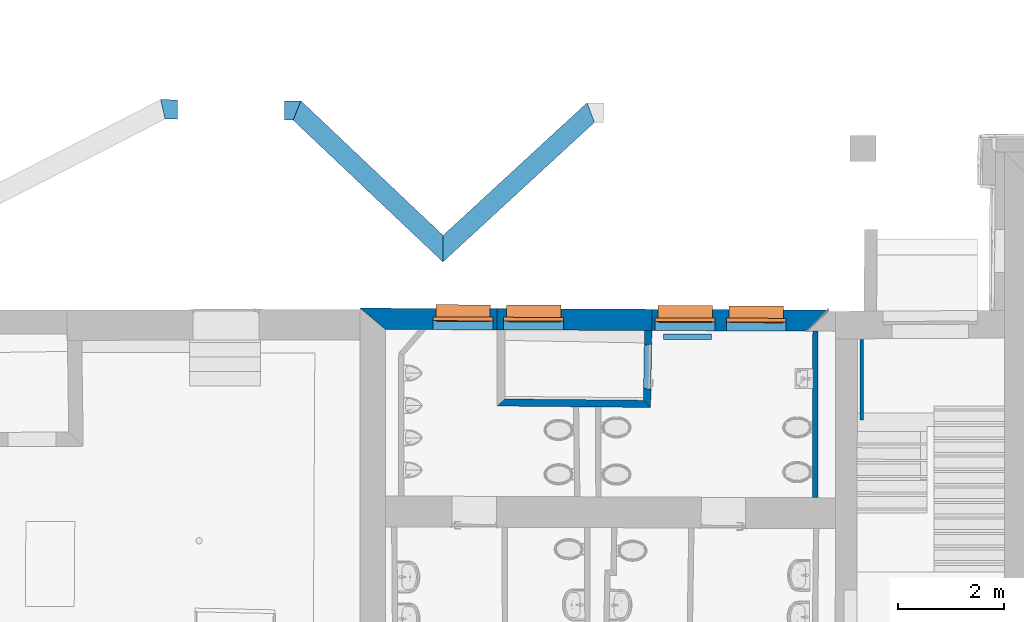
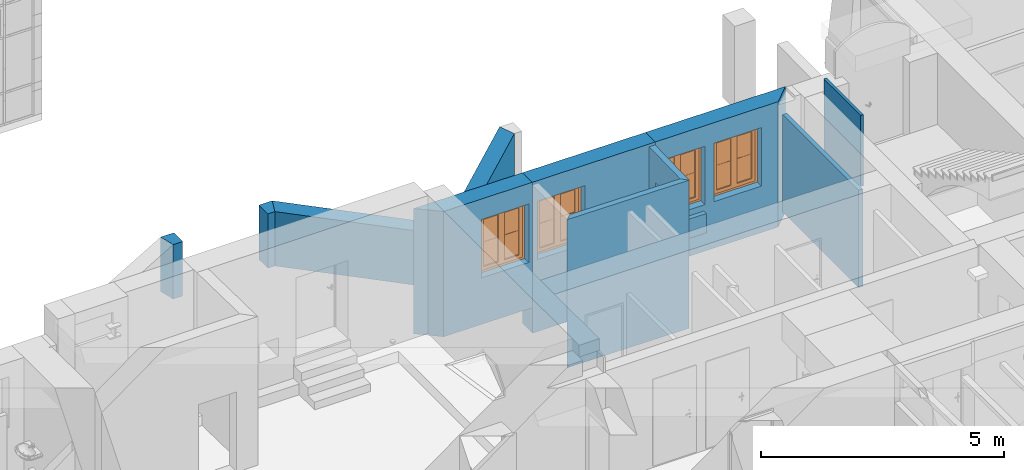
# One storey, part 50 of 196: 12 walls, 4 proxies, 5 openings.
"""IFC2X3 building model written with IfcOpenShell, lengths in metres."""

from ifc_helpers import new_model, entity, si_unit, converted_unit, derived_unit, money_unit, direction, frame, origin_with_axes, origin_2d_with_axis, place, context, subcontext, project, spatial, polyline, rectangle, outline, extrude, faceted_brep, source, transform, mapped, material, layer, layer_set, layer_usage, type_object, element, fill, save


model = new_model("IFC2X3")

# Units and contexts
model_context = context("Model", 3, precision=1e-05, world=origin_with_axes(), true_north=direction((0.0, 1.0)))
body_context = subcontext(model_context, "Body", "Model", "MODEL_VIEW")
ifc_project = project(units=[si_unit("LENGTHUNIT", "METRE"), si_unit("AREAUNIT", "SQUARE_METRE"), si_unit("VOLUMEUNIT", "CUBIC_METRE"), converted_unit("PLANEANGLEUNIT", "DEGREE", entity("IfcPlaneAngleMeasure", 0.0174532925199), si_unit("PLANEANGLEUNIT", "RADIAN"), dimensions=[0, 0, 0, 0, 0, 0, 0]), money_unit("EUR"), converted_unit("TIMEUNIT", "Year", entity("IfcTimeMeasure", 31556926.0), si_unit("TIMEUNIT", "SECOND"), dimensions=[0, 0, 1, 0, 0, 0, 0]), si_unit("MASSUNIT", "GRAM", prefix="KILO"), si_unit("THERMODYNAMICTEMPERATUREUNIT", "DEGREE_CELSIUS"), si_unit("LUMINOUSINTENSITYUNIT", "LUMEN"), si_unit("ENERGYUNIT", "JOULE", prefix="MEGA"), derived_unit("THERMALCONDUCTANCEUNIT", [(si_unit("POWERUNIT", "WATT"), 1), (si_unit("LENGTHUNIT", "METRE"), -1), (si_unit("THERMODYNAMICTEMPERATUREUNIT", "KELVIN"), -1)]), derived_unit("SPECIFICHEATCAPACITYUNIT", [(si_unit("ENERGYUNIT", "JOULE"), 1), (si_unit("MASSUNIT", "GRAM", prefix="KILO"), -1), (si_unit("THERMODYNAMICTEMPERATUREUNIT", "KELVIN"), -1)]), derived_unit("MASSDENSITYUNIT", [(si_unit("MASSUNIT", "GRAM", prefix="KILO"), 1), (si_unit("VOLUMEUNIT", "CUBIC_METRE"), -1)])], contexts=[model_context])

# Site, building, storey
site_placement = place(None, origin_with_axes())
site = spatial("IfcSite", under=ifc_project, at=site_placement, Name="Gelände", CompositionType="ELEMENT")
building_placement = place(site_placement, origin_with_axes())
building = spatial("IfcBuilding", under=site, at=building_placement, Name="Gebäude", CompositionType="ELEMENT")
storey_placement = place(building_placement, frame((0.0, 0.0, -3.0), z_axis=(0.0, 0.0, 1.0), x_axis=(1.0, 0.0, 0.0)))
storey = spatial("IfcBuildingStorey", under=building, at=storey_placement, Name="KELLERGESCHOSS", CompositionType="ELEMENT", Elevation=-3.0)

# Wall, openings, proxies
ifc_material_1 = material(Name="05_ALLGEMEIN - TRAGENDE BAUTEILE")
ifc_layer_1 = layer(ifc_material_1, 0.4, ventilated="UNKNOWN")
ifc_layer_set_1 = layer_set([ifc_layer_1], Name="05_ALLGEMEIN - TRAGENDE BAUTEILE 0.4")
ifc_layer_usage_1 = layer_usage(ifc_layer_set_1, "AXIS2", "NEGATIVE", 0.4)
wall_type_1 = type_object("IfcWallType", Name="05_ALLGEMEIN - TRAGENDE BAUTEILE 400", PredefinedType="ELEMENTEDWALL")
wall_1_placement = place(storey_placement, frame((21.3567077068, 26.1948777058, -0.36), z_axis=(0.0, 0.0, 1.0), x_axis=(-0.999992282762, 0.00392866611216, 0.0)))
wall_1 = element("IfcWallStandardCase", 1, at=wall_1_placement, inside=storey, type_object=wall_type_1, material=ifc_layer_usage_1, Name="Wand-033", ObjectType="ELEMENTEDWALL", context=body_context, shape_type="SweptSolid", body=[
    extrude(outline(polyline([(0.0, 0.0), (3.31437525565, 0.0), (3.31437525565, 0.4), (0.398431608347, 0.4), (0.0, 0.0)])), origin_with_axes(), (0.0, 0.0, 1.0), 3.14999999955),
])
opening_1_placement = place(wall_1_placement, frame((1.35717908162, 0.0, 1.1675367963), z_axis=(0.0, 0.0, 1.0), x_axis=(1.0, 0.0, 0.0)))
opening_1 = element("IfcOpeningElement", 2, at=opening_1_placement, cuts=wall_1, Name="Fenster-015", context=body_context, shape_type="SweptSolid", body=[
    extrude(rectangle(XDim=1.12454376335, YDim=1.467667, at=origin_2d_with_axis()), frame((0.0, 0.160251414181, 0.7338335), z_axis=(0.0, -1.0, 0.0), x_axis=(1.0, 0.0, 0.0)), (0.0, 0.0, -1.0), 0.639748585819),
    extrude(rectangle(XDim=1.02454376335, YDim=1.417667, at=origin_2d_with_axis()), frame((0.0, 0.160251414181, 0.7088335), z_axis=(0.0, 1.0, 0.0), x_axis=(1.0, 0.0, 0.0)), (0.0, 0.0, -1.0), 0.560251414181),
    extrude(rectangle(XDim=1.02454376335, YDim=0.153634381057, at=origin_2d_with_axis()), frame((0.0, 0.201089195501, -0.0768171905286), z_axis=(0.0, 1.0, 0.0), x_axis=(1.0, 0.0, 0.0)), (0.0, 0.0, -1.0), 0.44083778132),
])
opening_2_placement = place(wall_1_placement, frame((2.69629738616, 0.0, 1.1675367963), z_axis=(0.0, 0.0, 1.0), x_axis=(1.0, 0.0, 0.0)))
opening_2 = element("IfcOpeningElement", 3, at=opening_2_placement, cuts=wall_1, Name="Fenster-015", context=body_context, shape_type="SweptSolid", body=[
    extrude(rectangle(XDim=1.12454376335, YDim=1.467667, at=origin_2d_with_axis()), frame((0.0, 0.160251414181, 0.7338335), z_axis=(0.0, -1.0, 0.0), x_axis=(1.0, 0.0, 0.0)), (0.0, 0.0, -1.0), 0.639748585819),
    extrude(rectangle(XDim=1.02454376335, YDim=1.417667, at=origin_2d_with_axis()), frame((0.0, 0.160251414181, 0.7088335), z_axis=(0.0, 1.0, 0.0), x_axis=(1.0, 0.0, 0.0)), (0.0, 0.0, -1.0), 0.560251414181),
    extrude(rectangle(XDim=1.02454376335, YDim=0.153634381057, at=origin_2d_with_axis()), frame((0.0, 0.201089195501, -0.0768171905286), z_axis=(0.0, 1.0, 0.0), x_axis=(1.0, 0.0, 0.0)), (0.0, 0.0, -1.0), 0.44083778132),
])
building_element_proxy_type = type_object("IfcBuildingElementProxyType", Name="2-Flügelfenster 25", PredefinedType="NOTDEFINED")
shared_shape = source(origin_with_axes(), body_context, "Body", "Brep", [
    faceted_brep([(-0.512271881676, -0.05, 0.0), (-0.512271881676, -0.301089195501, -0.0442737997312), (0.512271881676, -0.301089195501, -0.0442737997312), (0.512271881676, -0.05, 0.0), (-0.512271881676, -0.02916221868, -0.118176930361), (-0.512271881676, -0.280251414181, -0.162450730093), (0.512271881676, -0.280251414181, -0.162450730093), (0.512271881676, -0.02916221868, -0.118176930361)], [[[0, 1, 2, 3]], [[0, 4, 5, 1]], [[1, 5, 6, 2]], [[3, 2, 6, 7]], [[4, 0, 3, 7]], [[5, 4, 7, 6]]]),
    faceted_brep([(-0.562271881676, -0.07, 0.0), (-0.562271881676, 0.0, 0.0), (-0.482271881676, 0.0, 0.08), (-0.482271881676, -0.07, 0.08), (-0.562271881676, -0.07, 1.467667), (-0.562271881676, 0.0, 1.467667), (-0.482271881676, 0.0, 1.387667), (-0.482271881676, -0.07, 1.387667)], [[[0, 1, 2, 3]], [[4, 5, 1, 0]], [[1, 5, 6, 2]], [[3, 2, 6, 7]], [[0, 3, 7, 4]], [[7, 6, 5, 4]]]),
    faceted_brep([(0.562271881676, -0.07, 0.0), (0.562271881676, 0.0, 0.0), (0.562271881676, 0.0, 1.467667), (0.562271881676, -0.07, 1.467667), (0.482271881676, -0.07, 0.08), (0.482271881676, 0.0, 0.08), (0.482271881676, 0.0, 1.387667), (0.482271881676, -0.07, 1.387667)], [[[0, 1, 2, 3]], [[4, 5, 1, 0]], [[1, 5, 6, 2]], [[3, 2, 6, 7]], [[0, 3, 7, 4]], [[7, 6, 5, 4]]]),
    faceted_brep([(-0.562271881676, -0.07, 0.0), (-0.562271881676, 0.0, 0.0), (0.562271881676, 0.0, 0.0), (0.562271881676, -0.07, 0.0), (-0.482271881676, -0.07, 0.08), (-0.482271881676, 0.0, 0.08), (0.0, 0.0, 0.08), (0.482271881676, 0.0, 0.08), (0.482271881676, -0.07, 0.08), (0.0, -0.07, 0.08)], [[[0, 1, 2, 3]], [[4, 5, 1, 0]], [[1, 5, 6, 7, 2]], [[3, 2, 7, 8]], [[0, 3, 8, 9, 4]], [[9, 6, 5, 4]], [[8, 7, 6, 9]]]),
    faceted_brep([(-0.562271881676, -0.07, 1.467667), (-0.562271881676, 0.0, 1.467667), (-0.482271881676, 0.0, 1.387667), (-0.482271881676, -0.07, 1.387667), (0.562271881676, -0.07, 1.467667), (0.562271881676, 0.0, 1.467667), (0.482271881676, 0.0, 1.387667), (0.0, 0.0, 1.387667), (0.0, -0.07, 1.387667), (0.482271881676, -0.07, 1.387667)], [[[0, 1, 2, 3]], [[4, 5, 1, 0]], [[1, 5, 6, 7, 2]], [[3, 2, 7, 8]], [[0, 3, 8, 9, 4]], [[9, 6, 5, 4]], [[8, 7, 6, 9]]]),
    faceted_brep([(-0.502271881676, 0.0, 0.06), (-0.502271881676, 0.015, 0.06), (-0.422271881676, 0.015, 0.14), (-0.422271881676, 0.0, 0.14), (-0.502271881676, 0.0, 1.407667), (-0.502271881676, 0.015, 1.407667), (-0.422271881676, 0.015, 1.327667), (-0.422271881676, 0.0, 1.327667)], [[[0, 1, 2, 3]], [[4, 5, 1, 0]], [[1, 5, 6, 2]], [[3, 2, 6, 7]], [[0, 3, 7, 4]], [[7, 6, 5, 4]]]),
    faceted_brep([(-0.01, 0.0, 0.06), (-0.01, 0.015, 0.06), (-0.01, 0.015, 1.407667), (-0.01, 0.0, 1.407667), (-0.07, 0.0, 0.14), (-0.07, 0.015, 0.14), (-0.07, 0.015, 1.327667), (-0.07, 0.0, 1.327667)], [[[0, 1, 2, 3]], [[4, 5, 1, 0]], [[1, 5, 6, 2]], [[3, 2, 6, 7]], [[0, 3, 7, 4]], [[7, 6, 5, 4]]]),
    faceted_brep([(-0.502271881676, 0.0, 0.06), (-0.502271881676, 0.015, 0.06), (-0.01, 0.015, 0.06), (-0.01, 0.0, 0.06), (-0.422271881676, 0.0, 0.14), (-0.422271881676, 0.015, 0.14), (-0.07, 0.015, 0.14), (-0.07, 0.0, 0.14)], [[[0, 1, 2, 3]], [[4, 5, 1, 0]], [[1, 5, 6, 2]], [[3, 2, 6, 7]], [[0, 3, 7, 4]], [[7, 6, 5, 4]]]),
    faceted_brep([(-0.502271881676, 0.0, 1.407667), (-0.502271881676, 0.015, 1.407667), (-0.422271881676, 0.015, 1.327667), (-0.422271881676, 0.0, 1.327667), (-0.01, 0.0, 1.407667), (-0.01, 0.015, 1.407667), (-0.07, 0.015, 1.327667), (-0.07, 0.0, 1.327667)], [[[0, 1, 2, 3]], [[4, 5, 1, 0]], [[1, 5, 6, 2]], [[3, 2, 6, 7]], [[0, 3, 7, 4]], [[7, 6, 5, 4]]]),
    faceted_brep([(-0.482271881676, -0.055, 0.08), (-0.482271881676, 0.0, 0.08), (-0.422271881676, 0.0, 0.14), (-0.422271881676, -0.055, 0.14), (-0.482271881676, -0.055, 1.387667), (-0.482271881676, 0.0, 1.387667), (-0.422271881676, 0.0, 1.327667), (-0.422271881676, -0.055, 1.327667)], [[[0, 1, 2, 3]], [[4, 5, 1, 0]], [[1, 5, 6, 2]], [[3, 2, 6, 7]], [[0, 3, 7, 4]], [[7, 6, 5, 4]]]),
    faceted_brep([(0.01, -0.055, 0.08), (0.01, 0.0, 0.08), (0.01, 0.0, 1.387667), (0.01, -0.055, 1.387667), (-0.07, -0.055, 0.14), (-0.07, 0.0, 0.14), (-0.07, 0.0, 1.327667), (-0.07, -0.055, 1.327667)], [[[0, 1, 2, 3]], [[4, 5, 1, 0]], [[1, 5, 6, 2]], [[3, 2, 6, 7]], [[0, 3, 7, 4]], [[7, 6, 5, 4]]]),
    faceted_brep([(-0.482271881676, -0.055, 0.08), (-0.482271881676, 0.0, 0.08), (0.01, 0.0, 0.08), (0.01, -0.055, 0.08), (-0.422271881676, -0.055, 0.14), (-0.422271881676, 0.0, 0.14), (-0.07, 0.0, 0.14), (-0.07, -0.055, 0.14)], [[[0, 1, 2, 3]], [[4, 5, 1, 0]], [[1, 5, 6, 2]], [[3, 2, 6, 7]], [[0, 3, 7, 4]], [[7, 6, 5, 4]]]),
    faceted_brep([(-0.482271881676, -0.055, 1.387667), (-0.482271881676, 0.0, 1.387667), (-0.422271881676, 0.0, 1.327667), (-0.422271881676, -0.055, 1.327667), (0.01, -0.055, 1.387667), (0.01, 0.0, 1.387667), (-0.07, 0.0, 1.327667), (-0.07, -0.055, 1.327667)], [[[0, 1, 2, 3]], [[4, 5, 1, 0]], [[1, 5, 6, 2]], [[3, 2, 6, 7]], [[0, 3, 7, 4]], [[7, 6, 5, 4]]]),
    faceted_brep([(-0.422271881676, -0.0325, 0.7213335), (-0.422271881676, -0.02, 0.7213335), (-0.07, -0.02, 0.7213335), (-0.07, -0.0325, 0.7213335), (-0.422271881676, -0.0325, 0.7463335), (-0.422271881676, -0.02, 0.7463335), (-0.07, -0.02, 0.7463335), (-0.07, -0.0325, 0.7463335)], [[[0, 1, 2, 3]], [[4, 5, 1, 0]], [[1, 5, 6, 2]], [[3, 2, 6, 7]], [[0, 3, 7, 4]], [[7, 6, 5, 4]]]),
    faceted_brep([(-0.422271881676, -0.02, 0.7213335), (-0.422271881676, -0.0075, 0.7213335), (-0.07, -0.0075, 0.7213335), (-0.07, -0.02, 0.7213335), (-0.422271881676, -0.02, 0.7463335), (-0.422271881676, -0.0075, 0.7463335), (-0.07, -0.0075, 0.7463335), (-0.07, -0.02, 0.7463335)], [[[0, 1, 2, 3]], [[4, 5, 1, 0]], [[1, 5, 6, 2]], [[3, 2, 6, 7]], [[0, 3, 7, 4]], [[7, 6, 5, 4]]]),
    faceted_brep([(-0.07, -0.015, 0.7213335), (-0.07, -0.025, 0.7213335), (-0.07, -0.025, 0.14), (-0.07, -0.015, 0.14), (-0.422271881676, -0.025, 0.7213335), (-0.422271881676, -0.015, 0.7213335), (-0.422271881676, -0.025, 0.14), (-0.422271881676, -0.015, 0.14)], [[[0, 1, 2, 3]], [[4, 1, 0, 5]], [[1, 4, 6, 2]], [[7, 3, 2, 6]], [[5, 0, 3, 7]], [[4, 5, 7, 6]]]),
    faceted_brep([(-0.422271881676, -0.025, 0.7463335), (-0.07, -0.025, 0.7463335), (-0.07, -0.025, 1.327667), (-0.422271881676, -0.025, 1.327667), (-0.07, -0.015, 0.7463335), (-0.422271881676, -0.015, 0.7463335), (-0.07, -0.015, 1.327667), (-0.422271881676, -0.015, 1.327667)], [[[0, 1, 2, 3]], [[4, 1, 0, 5]], [[1, 4, 6, 2]], [[6, 7, 3, 2]], [[5, 0, 3, 7]], [[4, 5, 7, 6]]]),
    faceted_brep([(-0.01, 0.0, 0.06), (-0.01, 0.015, 0.06), (0.07, 0.015, 0.14), (0.07, 0.0, 0.14), (-0.01, 0.0, 1.407667), (-0.01, 0.015, 1.407667), (0.07, 0.015, 1.327667), (0.07, 0.0, 1.327667)], [[[0, 1, 2, 3]], [[4, 5, 1, 0]], [[1, 5, 6, 2]], [[3, 2, 6, 7]], [[0, 3, 7, 4]], [[7, 6, 5, 4]]]),
    faceted_brep([(0.502271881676, 0.0, 0.06), (0.422271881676, 0.0, 0.14), (0.422271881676, 0.015, 0.14), (0.502271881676, 0.015, 0.06), (0.502271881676, 0.0, 1.407667), (0.422271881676, 0.0, 1.327667), (0.422271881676, 0.015, 1.327667), (0.502271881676, 0.015, 1.407667)], [[[0, 1, 2, 3]], [[0, 4, 5, 1]], [[1, 5, 6, 2]], [[3, 2, 6, 7]], [[4, 0, 3, 7]], [[5, 4, 7, 6]]]),
    faceted_brep([(-0.01, 0.0, 0.06), (-0.01, 0.015, 0.06), (0.502271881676, 0.015, 0.06), (0.502271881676, 0.0, 0.06), (0.07, 0.0, 0.14), (0.07, 0.015, 0.14), (0.422271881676, 0.015, 0.14), (0.422271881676, 0.0, 0.14)], [[[0, 1, 2, 3]], [[4, 5, 1, 0]], [[1, 5, 6, 2]], [[3, 2, 6, 7]], [[0, 3, 7, 4]], [[7, 6, 5, 4]]]),
    faceted_brep([(-0.01, 0.0, 1.407667), (0.502271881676, 0.0, 1.407667), (0.502271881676, 0.015, 1.407667), (-0.01, 0.015, 1.407667), (0.07, 0.0, 1.327667), (0.422271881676, 0.0, 1.327667), (0.422271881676, 0.015, 1.327667), (0.07, 0.015, 1.327667)], [[[0, 1, 2, 3]], [[0, 4, 5, 1]], [[1, 5, 6, 2]], [[3, 2, 6, 7]], [[4, 0, 3, 7]], [[5, 4, 7, 6]]]),
    faceted_brep([(0.01, -0.055, 0.08), (0.01, 0.0, 0.08), (0.07, 0.0, 0.14), (0.07, -0.055, 0.14), (0.01, -0.055, 1.387667), (0.01, 0.0, 1.387667), (0.07, 0.0, 1.327667), (0.07, -0.055, 1.327667)], [[[0, 1, 2, 3]], [[4, 5, 1, 0]], [[1, 5, 6, 2]], [[3, 2, 6, 7]], [[0, 3, 7, 4]], [[7, 6, 5, 4]]]),
    faceted_brep([(0.482271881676, -0.055, 0.08), (0.422271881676, -0.055, 0.14), (0.422271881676, 0.0, 0.14), (0.482271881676, 0.0, 0.08), (0.482271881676, -0.055, 1.387667), (0.422271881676, -0.055, 1.327667), (0.422271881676, 0.0, 1.327667), (0.482271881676, 0.0, 1.387667)], [[[0, 1, 2, 3]], [[0, 4, 5, 1]], [[1, 5, 6, 2]], [[3, 2, 6, 7]], [[4, 0, 3, 7]], [[5, 4, 7, 6]]]),
    faceted_brep([(0.01, -0.055, 0.08), (0.01, 0.0, 0.08), (0.482271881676, 0.0, 0.08), (0.482271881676, -0.055, 0.08), (0.07, -0.055, 0.14), (0.07, 0.0, 0.14), (0.422271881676, 0.0, 0.14), (0.422271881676, -0.055, 0.14)], [[[0, 1, 2, 3]], [[4, 5, 1, 0]], [[1, 5, 6, 2]], [[3, 2, 6, 7]], [[0, 3, 7, 4]], [[7, 6, 5, 4]]]),
    faceted_brep([(0.01, -0.055, 1.387667), (0.482271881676, -0.055, 1.387667), (0.482271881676, 0.0, 1.387667), (0.01, 0.0, 1.387667), (0.07, -0.055, 1.327667), (0.422271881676, -0.055, 1.327667), (0.422271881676, 0.0, 1.327667), (0.07, 0.0, 1.327667)], [[[0, 1, 2, 3]], [[0, 4, 5, 1]], [[1, 5, 6, 2]], [[3, 2, 6, 7]], [[4, 0, 3, 7]], [[5, 4, 7, 6]]]),
    faceted_brep([(0.07, -0.0325, 0.7213335), (0.07, -0.02, 0.7213335), (0.422271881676, -0.02, 0.7213335), (0.422271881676, -0.0325, 0.7213335), (0.07, -0.0325, 0.7463335), (0.07, -0.02, 0.7463335), (0.422271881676, -0.02, 0.7463335), (0.422271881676, -0.0325, 0.7463335)], [[[0, 1, 2, 3]], [[4, 5, 1, 0]], [[1, 5, 6, 2]], [[3, 2, 6, 7]], [[0, 3, 7, 4]], [[7, 6, 5, 4]]]),
    faceted_brep([(0.07, -0.02, 0.7213335), (0.07, -0.0075, 0.7213335), (0.422271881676, -0.0075, 0.7213335), (0.422271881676, -0.02, 0.7213335), (0.07, -0.02, 0.7463335), (0.07, -0.0075, 0.7463335), (0.422271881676, -0.0075, 0.7463335), (0.422271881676, -0.02, 0.7463335)], [[[0, 1, 2, 3]], [[4, 5, 1, 0]], [[1, 5, 6, 2]], [[3, 2, 6, 7]], [[0, 3, 7, 4]], [[7, 6, 5, 4]]]),
    faceted_brep([(0.422271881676, -0.015, 0.7213335), (0.422271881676, -0.025, 0.7213335), (0.422271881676, -0.025, 0.14), (0.422271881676, -0.015, 0.14), (0.07, -0.025, 0.7213335), (0.07, -0.015, 0.7213335), (0.07, -0.025, 0.14), (0.07, -0.015, 0.14)], [[[0, 1, 2, 3]], [[4, 1, 0, 5]], [[1, 4, 6, 2]], [[7, 3, 2, 6]], [[5, 0, 3, 7]], [[4, 5, 7, 6]]]),
    faceted_brep([(0.07, -0.025, 0.7463335), (0.422271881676, -0.025, 0.7463335), (0.422271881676, -0.025, 1.327667), (0.07, -0.025, 1.327667), (0.422271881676, -0.015, 0.7463335), (0.07, -0.015, 0.7463335), (0.422271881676, -0.015, 1.327667), (0.07, -0.015, 1.327667)], [[[0, 1, 2, 3]], [[4, 1, 0, 5]], [[1, 4, 6, 2]], [[6, 7, 3, 2]], [[5, 0, 3, 7]], [[4, 5, 7, 6]]]),
])
proxy_1_placement = place(opening_1_placement, frame((-0.562271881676, 0.0, 0.0), z_axis=(0.0, 0.0, 1.0), x_axis=(1.0, 0.0, 0.0)))
proxy_1 = element("IfcBuildingElementProxy", 4, at=proxy_1_placement, inside=storey, type_object=building_element_proxy_type, Name="Fenster-015", context=body_context, shape_type="MappedRepresentation", body=[
    mapped(shared_shape, transform((0.562271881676, 0.230251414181, 0.0))),
])
fill(opening_1, proxy_1)
proxy_2_placement = place(opening_2_placement, frame((-0.562271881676, 0.0, 0.0), z_axis=(0.0, 0.0, 1.0), x_axis=(1.0, 0.0, 0.0)))
proxy_2 = element("IfcBuildingElementProxy", 5, at=proxy_2_placement, inside=storey, type_object=building_element_proxy_type, Name="Fenster-015", context=body_context, shape_type="MappedRepresentation", body=[
    mapped(shared_shape, transform((0.562271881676, 0.230251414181, 0.0))),
])
fill(opening_2, proxy_2)

# Wall, opening, proxy
ifc_layer_usage_2 = layer_usage(ifc_layer_set_1, "AXIS2", "NEGATIVE", 0.4)
wall_2_placement = place(storey_placement, frame((18.042358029, 26.2078987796, -1.0), z_axis=(0.0, 0.0, 1.0), x_axis=(-0.999992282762, 0.00392866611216, 0.0)))
wall_2 = element("IfcWallStandardCase", 6, at=wall_2_placement, inside=storey, type_object=wall_type_1, material=ifc_layer_usage_2, Name="Wand-033", ObjectType="ELEMENTEDWALL", context=body_context, shape_type="SweptSolid", body=[
    extrude(outline(polyline([(0.0, 0.0), (2.9159274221, 0.0), (2.9159274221, 0.4), (0.0, 0.4), (0.0, 0.0)])), origin_with_axes(), (0.0, 0.0, 1.0), 3.7899999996),
])
opening_3_placement = place(wall_2_placement, frame((2.23131405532, 0.0, 1.8075367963), z_axis=(0.0, 0.0, 1.0), x_axis=(1.0, 0.0, 0.0)))
opening_3 = element("IfcOpeningElement", 7, at=opening_3_placement, cuts=wall_2, Name="Fenster-015", context=body_context, shape_type="SweptSolid", body=[
    extrude(rectangle(XDim=1.12454376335, YDim=1.467667, at=origin_2d_with_axis()), frame((0.0, 0.160251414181, 0.7338335), z_axis=(0.0, -1.0, 0.0), x_axis=(1.0, 0.0, 0.0)), (0.0, 0.0, -1.0), 0.639748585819),
    extrude(rectangle(XDim=1.02454376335, YDim=1.417667, at=origin_2d_with_axis()), frame((0.0, 0.160251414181, 0.7088335), z_axis=(0.0, 1.0, 0.0), x_axis=(1.0, 0.0, 0.0)), (0.0, 0.0, -1.0), 0.560251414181),
    extrude(rectangle(XDim=1.02454376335, YDim=0.153634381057, at=origin_2d_with_axis()), frame((0.0, 0.201089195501, -0.0768171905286), z_axis=(0.0, 1.0, 0.0), x_axis=(1.0, 0.0, 0.0)), (0.0, 0.0, -1.0), 0.44083778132),
])
proxy_3_placement = place(opening_3_placement, frame((-0.562271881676, 0.0, 0.0), z_axis=(0.0, 0.0, 1.0), x_axis=(1.0, 0.0, 0.0)))
proxy_3 = element("IfcBuildingElementProxy", 8, at=proxy_3_placement, inside=storey, type_object=building_element_proxy_type, Name="Fenster-015", context=body_context, shape_type="MappedRepresentation", body=[
    mapped(shared_shape, transform((0.562271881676, 0.230251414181, 0.0))),
])
fill(opening_3, proxy_3)

ifc_layer_usage_3 = layer_usage(ifc_layer_set_1, "AXIS2", "NEGATIVE", 0.4)
wall_3_placement = place(storey_placement, frame((15.1264531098, 26.2193544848, -0.36), z_axis=(0.0, 0.0, 1.0), x_axis=(-0.999992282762, 0.00392866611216, 0.0)))
wall_3 = element("IfcWallStandardCase", 9, at=wall_3_placement, inside=storey, type_object=wall_type_1, material=ifc_layer_usage_3, Name="Wand-033", ObjectType="ELEMENTEDWALL", context=body_context, shape_type="SweptSolid", body=[
    extrude(outline(polyline([(0.0, 0.0), (2.58452806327, 0.0), (2.10261212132, 0.4), (0.0, 0.4), (0.0, 0.0)])), origin_with_axes(), (0.0, 0.0, 1.0), 3.14999999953),
])
opening_4_placement = place(wall_3_placement, frame((0.643631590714, 0.0, 1.1675367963), z_axis=(0.0, 0.0, 1.0), x_axis=(1.0, 0.0, 0.0)))
opening_4 = element("IfcOpeningElement", 10, at=opening_4_placement, cuts=wall_3, Name="Fenster-015", context=body_context, shape_type="SweptSolid", body=[
    extrude(rectangle(XDim=1.12454376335, YDim=1.467667, at=origin_2d_with_axis()), frame((0.0, 0.160251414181, 0.7338335), z_axis=(0.0, -1.0, 0.0), x_axis=(1.0, 0.0, 0.0)), (0.0, 0.0, -1.0), 0.639748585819),
    extrude(rectangle(XDim=1.02454376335, YDim=1.417667, at=origin_2d_with_axis()), frame((0.0, 0.160251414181, 0.7088335), z_axis=(0.0, 1.0, 0.0), x_axis=(1.0, 0.0, 0.0)), (0.0, 0.0, -1.0), 0.560251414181),
    extrude(rectangle(XDim=1.02454376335, YDim=0.153634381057, at=origin_2d_with_axis()), frame((0.0, 0.201089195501, -0.0768171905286), z_axis=(0.0, 1.0, 0.0), x_axis=(1.0, 0.0, 0.0)), (0.0, 0.0, -1.0), 0.44083778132),
])
proxy_4_placement = place(opening_4_placement, frame((-0.562271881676, 0.0, 0.0), z_axis=(0.0, 0.0, 1.0), x_axis=(1.0, 0.0, 0.0)))
proxy_4 = element("IfcBuildingElementProxy", 11, at=proxy_4_placement, inside=storey, type_object=building_element_proxy_type, Name="Fenster-015", context=body_context, shape_type="MappedRepresentation", body=[
    mapped(shared_shape, transform((0.562271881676, 0.230251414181, 0.0))),
])
fill(opening_4, proxy_4)

# Walls
ifc_material_2 = material(Name="01_ALLGEMEIN - BAUTEIL")
ifc_layer_2 = layer(ifc_material_2, 0.105, ventilated="UNKNOWN")
ifc_layer_set_2 = layer_set([ifc_layer_2], Name="01_ALLGEMEIN - BAUTEIL 0.105")
ifc_layer_usage_4 = layer_usage(ifc_layer_set_2, "AXIS2", "NEGATIVE", 0.105)
wall_type_2 = type_object("IfcWallType", Name="01_ALLGEMEIN - BAUTEIL 105", PredefinedType="ELEMENTEDWALL")
wall_4_placement = place(storey_placement, frame((18.2557406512, 25.6414864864, 0.217027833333), z_axis=(0.0, 0.0, 1.0), x_axis=(0.99999983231, 0.000579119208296, 0.0)))
element("IfcWallStandardCase", 12, at=wall_4_placement, inside=storey, type_object=wall_type_2, material=ifc_layer_usage_4, Name="Wand-036", ObjectType="ELEMENTEDWALL", context=body_context, shape_type="SweptSolid", body=[
    extrude(outline(polyline([(0.0, 0.0), (0.903028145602, 0.0), (0.903028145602, 0.105), (0.0, 0.105), (0.0, 0.0)])), origin_with_axes(), (0.0, 0.0, 1.0), 0.485031),
])
ifc_material_3 = material(Name="43_Gipskarton")
ifc_layer_3 = layer(ifc_material_3, 0.1, ventilated="UNKNOWN")
ifc_layer_set_3 = layer_set([ifc_layer_3], Name="43_Gipskarton 0.1")
ifc_layer_usage_5 = layer_usage(ifc_layer_set_3, "AXIS2", "NEGATIVE", 0.0)
wall_type_3 = type_object("IfcWallType", Name="43_Gipskarton 100", PredefinedType="ELEMENTEDWALL")
wall_5_placement = place(storey_placement, frame((21.0571273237, 22.0828028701, -0.02), z_axis=(0.0, 0.0, 1.0), x_axis=(0.0014135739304, 0.999999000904, 0.0)))
element("IfcWallStandardCase", 13, at=wall_5_placement, inside=storey, type_object=wall_type_3, material=ifc_layer_usage_5, Name="Wand-039", ObjectType="ELEMENTEDWALL", context=body_context, shape_type="SweptSolid", body=[
    extrude(outline(polyline([(0.579723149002, -0.1), (3.71298028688, -0.1), (3.71323179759, 0.0), (0.580002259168, 0.0), (0.579723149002, -0.1)])), origin_with_axes(), (0.0, 0.0, 1.0), 2.45),
])
ifc_layer_4 = layer(ifc_material_2, 0.065, ventilated="UNKNOWN")
ifc_layer_set_4 = layer_set([ifc_layer_4], Name="01_ALLGEMEIN - BAUTEIL 0.065")
ifc_layer_usage_6 = layer_usage(ifc_layer_set_4, "AXIS2", "NEGATIVE", 0.065)
wall_type_4 = type_object("IfcWallType", Name="01_ALLGEMEIN - BAUTEIL 65", PredefinedType="ELEMENTEDWALL")
wall_6_placement = place(storey_placement, frame((22.0157058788, 24.1237043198, 1.32076733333), z_axis=(0.0, 0.0, 1.0), x_axis=(0.0, 1.0, 0.0)))
element("IfcWallStandardCase", 14, at=wall_6_placement, inside=storey, type_object=wall_type_4, material=ifc_layer_usage_6, Name="Wand-036", ObjectType="ELEMENTEDWALL", context=body_context, shape_type="SweptSolid", body=[
    extrude(outline(polyline([(0.0, 0.0), (1.51763914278, 0.0), (1.51763914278, 0.065), (0.0, 0.065), (0.0, 0.0)])), origin_with_axes(), (0.0, 0.0, 1.0), 1.788305),
])
ifc_layer_5 = layer(ifc_material_1, 0.365, ventilated="UNKNOWN")
ifc_layer_set_5 = layer_set([ifc_layer_5], Name="05_ALLGEMEIN - TRAGENDE BAUTEILE 0.365")
ifc_layer_usage_7 = layer_usage(ifc_layer_set_5, "AXIS2", "NEGATIVE", 0.365)
wall_type_5 = type_object("IfcWallType", Name="05_ALLGEMEIN - TRAGENDE BAUTEILE 365", PredefinedType="ELEMENTEDWALL")
wall_7_placement = place(storey_placement, frame((16.8164413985, 30.0927634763, -0.36), z_axis=(0.0, 0.0, 1.0), x_axis=(-0.735474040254, -0.677552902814, 0.0)))
element("IfcWallStandardCase", 15, at=wall_7_placement, inside=storey, type_object=wall_type_5, material=ifc_layer_usage_7, Name="Wand-031", ObjectType="ELEMENTEDWALL", context=body_context, shape_type="SweptSolid", body=[
    extrude(outline(polyline([(0.0, 0.0), (3.68311161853, 0.0), (4.02403623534, 0.365), (0.147149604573, 0.365), (0.0, 0.0)])), origin_with_axes(), (0.0, 0.0, 1.0), 1.36684061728),
])
ifc_layer_usage_8 = layer_usage(ifc_layer_set_5, "AXIS2", "NEGATIVE", 0.365)
wall_8_placement = place(storey_placement, frame((14.1076084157, 27.5972605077, -0.36), z_axis=(0.0, 0.0, 1.0), x_axis=(-0.726086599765, 0.687603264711, 0.0)))
element("IfcWallStandardCase", 16, at=wall_8_placement, inside=storey, type_object=wall_type_5, material=ifc_layer_usage_8, Name="Wand-032", ObjectType="ELEMENTEDWALL", context=body_context, shape_type="SweptSolid", body=[
    extrude(outline(polyline([(0.0, 0.0), (3.6842173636, 0.0), (3.53849720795, 0.365), (-0.340924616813, 0.365), (0.0, 0.0)])), origin_with_axes(), (0.0, 0.0, 1.0), 1.36684061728),
])
ifc_layer_usage_9 = layer_usage(ifc_layer_set_5, "AXIS2", "NEGATIVE", 0.365)
wall_9_placement = place(storey_placement, frame((11.4325475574, 30.1305403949, -0.36), z_axis=(0.0, 0.0, 1.0), x_axis=(-0.999998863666, -0.0015075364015, 0.0)))
element("IfcWallStandardCase", 17, at=wall_9_placement, inside=storey, type_object=wall_type_5, material=ifc_layer_usage_9, Name="Wand-033", ObjectType="ELEMENTEDWALL", context=body_context, shape_type="SweptSolid", body=[
    extrude(outline(polyline([(0.0, 0.0), (0.312792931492, 0.0), (0.312792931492, 0.365), (0.145720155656, 0.365), (0.0, 0.0)])), origin_with_axes(), (0.0, 0.0, 1.0), 1.36684061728),
])
ifc_layer_usage_10 = layer_usage(ifc_layer_set_5, "AXIS2", "NEGATIVE", 0.365)
wall_10_placement = place(storey_placement, frame((9.11180722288, 30.147569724, -0.36), z_axis=(0.0, 0.0, 1.0), x_axis=(-0.999899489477, 0.0141778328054, 0.0)))
element("IfcWallStandardCase", 18, at=wall_10_placement, inside=storey, type_object=wall_type_5, material=ifc_layer_usage_10, Name="Wand-034", ObjectType="ELEMENTEDWALL", context=body_context, shape_type="SweptSolid", body=[
    extrude(outline(polyline([(0.0, 0.0), (0.318908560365, 0.0), (0.227904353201, 0.365), (0.0, 0.365), (0.0, 0.0)])), origin_with_axes(), (0.0, 0.0, 1.0), 1.36684061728),
])
ifc_material_4 = material(Name="59_MW Kalksandstein")
ifc_layer_6 = layer(ifc_material_4, 0.134459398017, ventilated="UNKNOWN")
ifc_layer_set_6 = layer_set([ifc_layer_6], Name="59_MW Kalksandstein 0.134459")
ifc_layer_usage_11 = layer_usage(ifc_layer_set_6, "AXIS2", "NEGATIVE", 0.0)
wall_type_6 = type_object("IfcWallType", Name="59_MW Kalksandstein 134", PredefinedType="ELEMENTEDWALL")
wall_11_placement = place(storey_placement, frame((18.0123133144, 24.3596223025, -1.0), z_axis=(0.0, 0.0, 1.0), x_axis=(-0.999953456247, 0.00964807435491, 0.0)))
element("IfcWallStandardCase", 19, at=wall_11_placement, inside=storey, type_object=wall_type_6, material=ifc_layer_usage_11, Name="Wand-039", ObjectType="ELEMENTEDWALL", context=body_context, shape_type="SweptSolid", body=[
    extrude(outline(polyline([(0.137408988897, -0.134459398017), (2.74456643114, -0.134459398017), (2.88877305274, 0.0), (0.0, 0.0), (0.137408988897, -0.134459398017)])), origin_with_axes(), (0.0, 0.0, 1.0), 3.72),
])

# Wall, opening
ifc_material_5 = material(Name="59_MW Kalksandstein-600")
ifc_layer_7 = layer(ifc_material_5, 0.138294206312, ventilated="UNKNOWN")
ifc_layer_set_7 = layer_set([ifc_layer_7], Name="59_MW Kalksandstein-600 0.138294")
ifc_layer_usage_12 = layer_usage(ifc_layer_set_7, "AXIS2", "NEGATIVE", 0.138294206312)
wall_type_7 = type_object("IfcWallType", Name="59_MW Kalksandstein-600 138", PredefinedType="ELEMENTEDWALL")
wall_12_placement = place(storey_placement, frame((18.0123133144, 24.3596223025, -1.0), z_axis=(0.0, 0.0, 1.0), x_axis=(0.0162533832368, 0.999867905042, 0.0)))
wall_12 = element("IfcWallStandardCase", 20, at=wall_12_placement, inside=storey, type_object=wall_type_7, material=ifc_layer_usage_12, Name="Wand-040", ObjectType="ELEMENTEDWALL", context=body_context, shape_type="SweptSolid", body=[
    extrude(outline(polyline([(0.0, 0.0), (1.44849027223, 0.0), (1.44678565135, 0.138294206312), (0.133548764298, 0.138294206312), (0.0, 0.0)])), origin_with_axes(), (0.0, 0.0, 1.0), 3.72),
])
opening_5_placement = place(wall_12_placement, frame((0.764128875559, 0.0, 0.9899005), z_axis=(0.0, 0.0, 1.0), x_axis=(1.0, 0.0, 0.0)))
element("IfcOpeningElement", 21, at=opening_5_placement, cuts=wall_12, Name="Tür-022", context=body_context, shape_type="SweptSolid", body=[
    extrude(rectangle(XDim=0.824257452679, YDim=1.992285, at=origin_2d_with_axis()), frame((0.0, -0.138294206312, 0.9961425), z_axis=(0.0, -1.0, 0.0), x_axis=(1.0, 0.0, 0.0)), (0.0, 0.0, -1.0), 0.414882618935),
])

save(model, "model.ifc")
